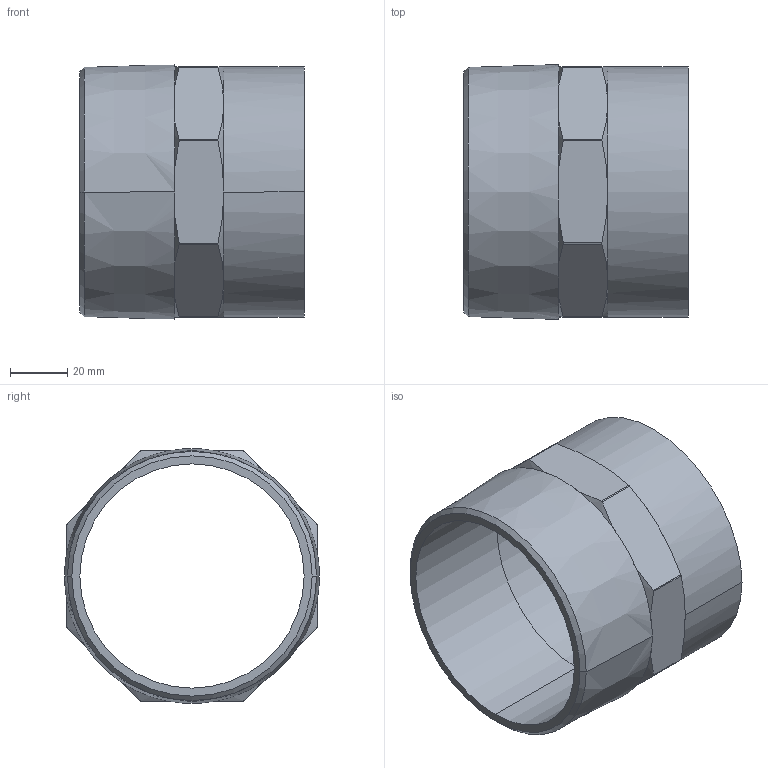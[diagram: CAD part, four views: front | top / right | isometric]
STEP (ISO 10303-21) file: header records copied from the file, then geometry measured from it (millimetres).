
FILE_DESCRIPTION((''),'2;1');
FILE_NAME('G:\BIR\Pajchrowski\projekty\8000 models\4243\4243 STEP\4243_80-3.stp','2006-04-10T13:53:14',('pajchrowski'),(''),'Autodesk Inventor 8','Autodesk Inventor 8','');
FILE_SCHEMA(('AUTOMOTIVE_DESIGN { 1 0 10303 214 1 1 1 1 }'));
Length unit declared in the file: millimetre
Products named in the file (1): 4243_80-3
Bounding box: 78 x 88.66 x 88.48 mm (x, y, z)
Volume: 89390.2 mm3; surface area: 43380.8 mm2
Topology: 1 solids, 1 shells, 53 faces, 122 edges, 72 vertices
Faces by surface type: cone 20, plane 19, cylinder 14
Entity records: 1483 total; most frequent: CARTESIAN_POINT 312, DIRECTION 254, ORIENTED_EDGE 244, EDGE_CURVE 122, AXIS2_PLACEMENT_3D 110, VERTEX_POINT 72, CIRCLE 56, EDGE_LOOP 56
